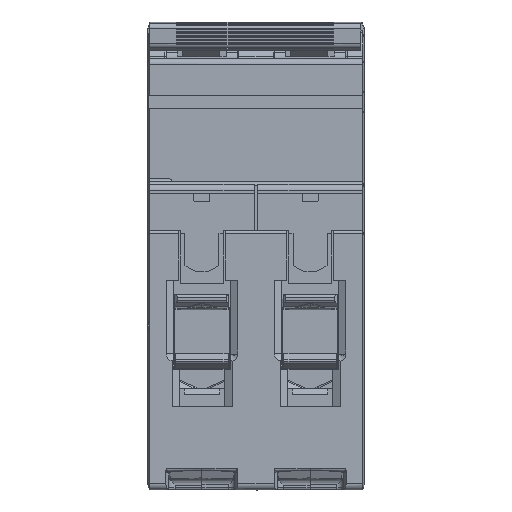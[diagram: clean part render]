
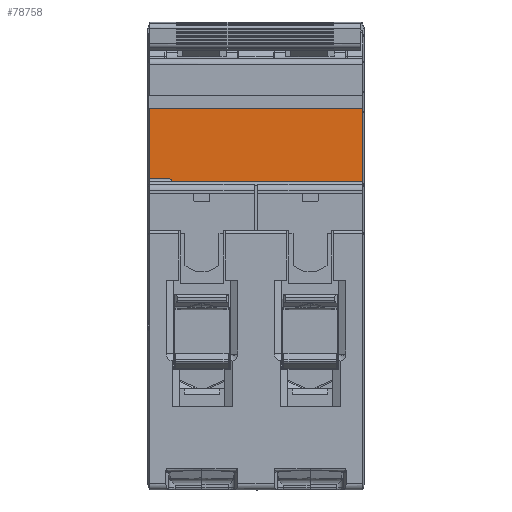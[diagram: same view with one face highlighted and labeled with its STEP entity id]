
A CAD part, front view. The second image highlights one B-rep face of the part: STEP entity #78758.
In plain terms, the highlighted planar face has unit normal (0, -1, 0).
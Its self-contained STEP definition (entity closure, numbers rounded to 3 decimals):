
#1350 = VERTEX_POINT ( 'NONE', #45765 ) ;
#1353 = VERTEX_POINT ( 'NONE', #45766 ) ;
#1377 = VERTEX_POINT ( 'NONE', #45778 ) ;
#1380 = VERTEX_POINT ( 'NONE', #45780 ) ;
#1395 = VERTEX_POINT ( 'NONE', #45788 ) ;
#1405 = VERTEX_POINT ( 'NONE', #45792 ) ;
#1410 = VERTEX_POINT ( 'NONE', #45794 ) ;
#1412 = VERTEX_POINT ( 'NONE', #45795 ) ;
#1417 = VERTEX_POINT ( 'NONE', #45798 ) ;
#1801 = VERTEX_POINT ( 'NONE', #46127 ) ;
#1831 = VERTEX_POINT ( 'NONE', #46163 ) ;
#4562 = ORIENTED_EDGE ( 'NONE', *, *, #17687, .F. ) ;
#4563 = ORIENTED_EDGE ( 'NONE', *, *, #16150, .T. ) ;
#4564 = ORIENTED_EDGE ( 'NONE', *, *, #17729, .T. ) ;
#4565 = ORIENTED_EDGE ( 'NONE', *, *, #23643, .T. ) ;
#4566 = ORIENTED_EDGE ( 'NONE', *, *, #16108, .T. ) ;
#4567 = ORIENTED_EDGE ( 'NONE', *, *, #16041, .F. ) ;
#4568 = ORIENTED_EDGE ( 'NONE', *, *, #16656, .T. ) ;
#4569 = ORIENTED_EDGE ( 'NONE', *, *, #16677, .F. ) ;
#4570 = ORIENTED_EDGE ( 'NONE', *, *, #16674, .T. ) ;
#4571 = ORIENTED_EDGE ( 'NONE', *, *, #16080, .T. ) ;
#4572 = ORIENTED_EDGE ( 'NONE', *, *, #16118, .T. ) ;
#4573 = ORIENTED_EDGE ( 'NONE', *, *, #16678, .F. ) ;
#4574 = ORIENTED_EDGE ( 'NONE', *, *, #16125, .T. ) ;
#4575 = ORIENTED_EDGE ( 'NONE', *, *, #16139, .T. ) ;
#4576 = ORIENTED_EDGE ( 'NONE', *, *, #16146, .T. ) ;
#4577 = ORIENTED_EDGE ( 'NONE', *, *, #16149, .T. ) ;
#16041 = EDGE_CURVE ( 'NONE', #1353, #1350, #53259, .T. ) ;
#16080 = EDGE_CURVE ( 'NONE', #1377, #1380, #110696, .T. ) ;
#16108 = EDGE_CURVE ( 'NONE', #84339, #1350, #110830, .T. ) ;
#16118 = EDGE_CURVE ( 'NONE', #1380, #1410, #110849, .T. ) ;
#16125 = EDGE_CURVE ( 'NONE', #1412, #1395, #110897, .T. ) ;
#16139 = EDGE_CURVE ( 'NONE', #1395, #1405, #110970, .T. ) ;
#16146 = EDGE_CURVE ( 'NONE', #1405, #1417, #111005, .T. ) ;
#16149 = EDGE_CURVE ( 'NONE', #1417, #84323, #111160, .T. ) ;
#16150 = EDGE_CURVE ( 'NONE', #84352, #84373, #111131, .T. ) ;
#16656 = EDGE_CURVE ( 'NONE', #1353, #1801, #122761, .T. ) ;
#16674 = EDGE_CURVE ( 'NONE', #1831, #1377, #124832, .T. ) ;
#16677 = EDGE_CURVE ( 'NONE', #1831, #1801, #124872, .T. ) ;
#16678 = EDGE_CURVE ( 'NONE', #1412, #1410, #124876, .T. ) ;
#17687 = EDGE_CURVE ( 'NONE', #84352, #84323, #103070, .T. ) ;
#17729 = EDGE_CURVE ( 'NONE', #84373, #84338, #103369, .T. ) ;
#23643 = EDGE_CURVE ( 'NONE', #84338, #84339, #118513, .T. ) ;
#32077 = VECTOR ( 'NONE', #110708, 1000. ) ;
#32124 = VECTOR ( 'NONE', #110842, 1000. ) ;
#32135 = VECTOR ( 'NONE', #110864, 1000. ) ;
#32154 = VECTOR ( 'NONE', #110902, 1000. ) ;
#32170 = VECTOR ( 'NONE', #110974, 1000. ) ;
#32185 = VECTOR ( 'NONE', #111130, 1000. ) ;
#32195 = VECTOR ( 'NONE', #111162, 1000. ) ;
#32200 = VECTOR ( 'NONE', #111166, 1000. ) ;
#32383 = VECTOR ( 'NONE', #53273, 1000. ) ;
#45260 = EDGE_LOOP ( 'NONE', ( #4562, #4563, #4564, #4565, #4566, #4567, #4568, #4569, #4570, #4571, #4572, #4573, #4574, #4575, #4576, #4577 ) ) ;
#45765 = CARTESIAN_POINT ( 'NONE',  ( 19.561, -16.627, 12.604 ) ) ;
#45766 = CARTESIAN_POINT ( 'NONE',  ( 19.961, -16.627, 12.204 ) ) ;
#45778 = CARTESIAN_POINT ( 'NONE',  ( 28.561, -16.627, 12.204 ) ) ;
#45780 = CARTESIAN_POINT ( 'NONE',  ( 28.961, -16.627, 12.604 ) ) ;
#45788 = CARTESIAN_POINT ( 'NONE',  ( -1.939, -16.627, 24.504 ) ) ;
#45792 = CARTESIAN_POINT ( 'NONE',  ( -1.939, -16.627, 13.104 ) ) ;
#45794 = CARTESIAN_POINT ( 'NONE',  ( 32.861, -16.627, 12.604 ) ) ;
#45795 = CARTESIAN_POINT ( 'NONE',  ( 32.861, -16.627, 24.504 ) ) ;
#45798 = CARTESIAN_POINT ( 'NONE',  ( 1.461, -16.627, 13.104 ) ) ;
#46127 = CARTESIAN_POINT ( 'NONE',  ( 19.961, -16.627, 11.604 ) ) ;
#46163 = CARTESIAN_POINT ( 'NONE',  ( 28.561, -16.627, 11.604 ) ) ;
#53259 = LINE ( 'NONE', #53261, #32383 ) ;
#53261 = CARTESIAN_POINT ( 'NONE',  ( 19.561, -16.627, 12.604 ) ) ;
#53273 = DIRECTION ( 'NONE',  ( -0.707, 0., 0.707 ) ) ;
#78758 = ADVANCED_FACE ( 'NONE', ( #142192 ), #142177, .T. ) ;
#84323 = VERTEX_POINT ( 'NONE', #85809 ) ;
#84338 = VERTEX_POINT ( 'NONE', #85839 ) ;
#84339 = VERTEX_POINT ( 'NONE', #85842 ) ;
#84352 = VERTEX_POINT ( 'NONE', #85864 ) ;
#84373 = VERTEX_POINT ( 'NONE', #85903 ) ;
#85809 = CARTESIAN_POINT ( 'NONE',  ( 2.361, -16.627, 12.204 ) ) ;
#85839 = CARTESIAN_POINT ( 'NONE',  ( 10.961, -16.627, 12.204 ) ) ;
#85842 = CARTESIAN_POINT ( 'NONE',  ( 11.361, -16.627, 12.604 ) ) ;
#85864 = CARTESIAN_POINT ( 'NONE',  ( 2.361, -16.627, 11.604 ) ) ;
#85903 = CARTESIAN_POINT ( 'NONE',  ( 10.961, -16.627, 11.604 ) ) ;
#90020 = VECTOR ( 'NONE', #122766, 1000. ) ;
#90077 = VECTOR ( 'NONE', #124860, 1000. ) ;
#90096 = VECTOR ( 'NONE', #124875, 1000. ) ;
#90099 = VECTOR ( 'NONE', #124879, 1000. ) ;
#103070 = LINE ( 'NONE', #103086, #127389 ) ;
#103086 = CARTESIAN_POINT ( 'NONE',  ( 2.361, -16.627, 12.604 ) ) ;
#103088 = DIRECTION ( 'NONE',  ( 0., 0., 1. ) ) ;
#103369 = LINE ( 'NONE', #103442, #127437 ) ;
#103442 = CARTESIAN_POINT ( 'NONE',  ( 10.961, -16.627, 12.604 ) ) ;
#103448 = DIRECTION ( 'NONE',  ( 0., 0., 1. ) ) ;
#110696 = LINE ( 'NONE', #110704, #32077 ) ;
#110704 = CARTESIAN_POINT ( 'NONE',  ( 28.961, -16.627, 12.604 ) ) ;
#110708 = DIRECTION ( 'NONE',  ( 0.707, 0., 0.707 ) ) ;
#110830 = LINE ( 'NONE', #110839, #32124 ) ;
#110839 = CARTESIAN_POINT ( 'NONE',  ( 15.461, -16.627, 12.604 ) ) ;
#110842 = DIRECTION ( 'NONE',  ( 1., 0., 0. ) ) ;
#110845 = CARTESIAN_POINT ( 'NONE',  ( 15.461, -16.627, 12.604 ) ) ;
#110849 = LINE ( 'NONE', #110845, #32135 ) ;
#110864 = DIRECTION ( 'NONE',  ( 1., 0., 0. ) ) ;
#110896 = CARTESIAN_POINT ( 'NONE',  ( 15.461, -16.627, 24.504 ) ) ;
#110897 = LINE ( 'NONE', #110896, #32154 ) ;
#110902 = DIRECTION ( 'NONE',  ( -1., 0., 0. ) ) ;
#110969 = CARTESIAN_POINT ( 'NONE',  ( -1.939, -16.627, 12.604 ) ) ;
#110970 = LINE ( 'NONE', #110969, #32170 ) ;
#110974 = DIRECTION ( 'NONE',  ( 0., 0., -1. ) ) ;
#111005 = LINE ( 'NONE', #111122, #32185 ) ;
#111122 = CARTESIAN_POINT ( 'NONE',  ( 15.461, -16.627, 13.104 ) ) ;
#111130 = DIRECTION ( 'NONE',  ( 1., 0., 0. ) ) ;
#111131 = LINE ( 'NONE', #111165, #32200 ) ;
#111160 = LINE ( 'NONE', #111161, #32195 ) ;
#111161 = CARTESIAN_POINT ( 'NONE',  ( 1.461, -16.627, 13.104 ) ) ;
#111162 = DIRECTION ( 'NONE',  ( 0.707, 0., -0.707 ) ) ;
#111165 = CARTESIAN_POINT ( 'NONE',  ( 15.461, -16.627, 11.604 ) ) ;
#111166 = DIRECTION ( 'NONE',  ( 1., 0., 0. ) ) ;
#113538 = VECTOR ( 'NONE', #118521, 1000. ) ;
#118513 = LINE ( 'NONE', #118518, #113538 ) ;
#118518 = CARTESIAN_POINT ( 'NONE',  ( 11.361, -16.627, 12.604 ) ) ;
#118521 = DIRECTION ( 'NONE',  ( 0.707, 0., 0.707 ) ) ;
#122761 = LINE ( 'NONE', #122764, #90020 ) ;
#122764 = CARTESIAN_POINT ( 'NONE',  ( 19.961, -16.627, 12.604 ) ) ;
#122766 = DIRECTION ( 'NONE',  ( 0., 0., -1. ) ) ;
#124832 = LINE ( 'NONE', #124856, #90077 ) ;
#124856 = CARTESIAN_POINT ( 'NONE',  ( 28.561, -16.627, 12.604 ) ) ;
#124860 = DIRECTION ( 'NONE',  ( 0., 0., 1. ) ) ;
#124872 = LINE ( 'NONE', #124873, #90096 ) ;
#124873 = CARTESIAN_POINT ( 'NONE',  ( 33.061, -16.627, 11.604 ) ) ;
#124875 = DIRECTION ( 'NONE',  ( -1., 0., 0. ) ) ;
#124876 = LINE ( 'NONE', #124877, #90099 ) ;
#124877 = CARTESIAN_POINT ( 'NONE',  ( 32.861, -16.627, -31.296 ) ) ;
#124879 = DIRECTION ( 'NONE',  ( 0., 0., -1. ) ) ;
#127389 = VECTOR ( 'NONE', #103088, 1000. ) ;
#127437 = VECTOR ( 'NONE', #103448, 1000. ) ;
#142177 = PLANE ( 'NONE',  #143083 ) ;
#142192 = FACE_OUTER_BOUND ( 'NONE', #45260, .T. ) ;
#142202 = CARTESIAN_POINT ( 'NONE',  ( 15.461, -16.627, 12.604 ) ) ;
#142203 = DIRECTION ( 'NONE',  ( 0., -1., 0. ) ) ;
#142204 = DIRECTION ( 'NONE',  ( 1., 0., 0. ) ) ;
#143083 = AXIS2_PLACEMENT_3D ( 'NONE', #142202, #142203, #142204 ) ;
